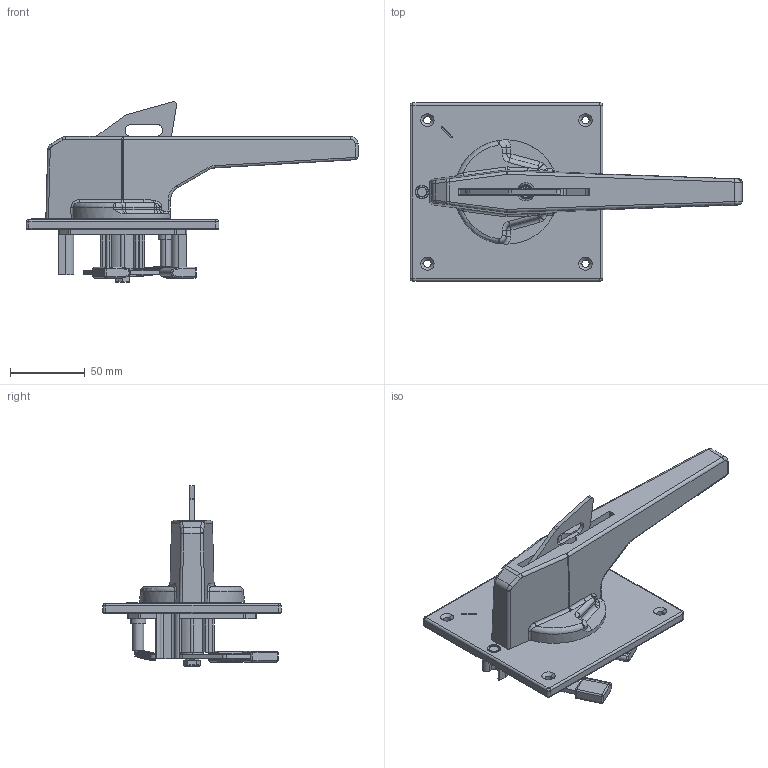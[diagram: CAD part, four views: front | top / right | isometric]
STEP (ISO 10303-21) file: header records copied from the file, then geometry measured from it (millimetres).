
FILE_DESCRIPTION (( 'STEP AP203' ), '1' );
FILE_NAME ('ﾐﾏﾄ-ﾂﾀ04-36_ﾂﾀ51-35_ﾂﾀ57-35_ﾂﾀ57-39.STEP', '2015-12-18T07:04:24', ( 'admin' ), ( '' ), 'SwSTEP 2.0', 'SolidWorks 2012', '' );
FILE_SCHEMA (( 'CONFIG_CONTROL_DESIGN' ));
Products named in the file (18): ﾐﾏﾄ-ﾂﾀ04-36_ﾂﾀ51-35_ﾂﾀ57-35_ﾂﾀ57-39; ﾘ ﾃﾆﾈﾊ.715111.026; ﾏ跖浯 ﾃﾆﾈﾊ.753552.017_癸; ﾘ琺矜_ⅰⅱ浯_ﾃ758491_061; Âòóëêà_Ã714322_003; Áîëò Ì6 ÃÆÈÊ.758121.015; ﾏ跖浯 ﾃﾆﾈﾊ.753512.076_癸; ﾏ魵鮏鶴 ﾃﾆﾈﾊ.304149.002; 项忸潢 闷仁.304149.002; ﾏ魵鮏鶴 ﾃﾆﾈﾊ.741321.003; ﾐ飼璢 ﾃﾆﾈﾊ.741374.017; 澡犟囹铕 闷仁.741218.003; Ðó÷êà; Àðì. ãàéêà ðóêîÿòêè_1; Îñíîâàíèå ÐÄÏ (ñáîðêà)_¤«ï ç¥àâ¥¦ ; ﾎ ⅲ濵籵湜 ﾐﾄﾏ; Îñíîâàíèå ÐÄÏ_¤«ï ç¥àâ¥¦ 
Assembly tree (18 placements, depth 3):
  ﾐﾏﾄ-ﾂﾀ04-36_ﾂﾀ51-35_ﾂﾀ57-35_ﾂﾀ57-39
    Îñíîâàíèå ÐÄÏ (ñáîðêà)_¤«ï ç¥àâ¥¦ 
      Îñíîâàíèå ÐÄÏ_¤«ï ç¥àâ¥¦ 
      ﾎ ⅲ濵籵湜 ﾐﾄﾏ
    Ðó÷êà
      Ðó÷êà
      Àðì. ãàéêà ðóêîÿòêè_1
    澡犟囹铕 闷仁.741218.003
    ﾐ飼璢 ﾃﾆﾈﾊ.741374.017
    ﾏ魵鮏鶴 ﾃﾆﾈﾊ.304149.002
      ﾏ魵鮏鶴 ﾃﾆﾈﾊ.741321.003
      项忸潢 闷仁.304149.002  x2
    ﾏ跖浯 ﾃﾆﾈﾊ.753512.076_癸
    Áîëò Ì6 ÃÆÈÊ.758121.015
    Âòóëêà_Ã714322_003
    ﾘ琺矜_ⅰⅱ浯_ﾃ758491_061
    ﾏ跖浯 ﾃﾆﾈﾊ.753552.017_癸
    ﾘ ﾃﾆﾈﾊ.715111.026
Bounding box: 222.44 x 119.43 x 121.08 mm (x, y, z)
Volume: 262181 mm3; surface area: 115676 mm2
Topology: 15 solids, 15 shells, 1115 faces, 2780 edges, 1705 vertices
Faces by surface type: cylinder 510, plane 351, torus 161, bspline 46, cone 26, sphere 21
Entity records: 49534 total; most frequent: CARTESIAN_POINT 21651, DIRECTION 5780, ORIENTED_EDGE 5336, EDGE_CURVE 2668, AXIS2_PLACEMENT_3D 2238, VERTEX_POINT 1651, VECTOR 1304, LINE 1304
